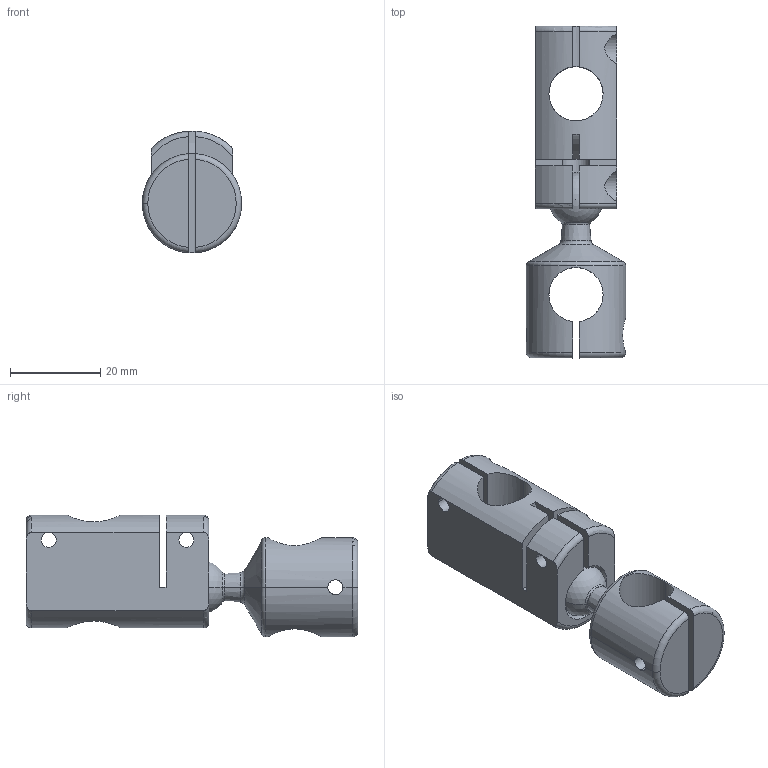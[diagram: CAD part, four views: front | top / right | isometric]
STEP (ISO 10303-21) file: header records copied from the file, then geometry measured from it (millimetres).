
FILE_DESCRIPTION (( 'STEP AP214' ), '1' );
FILE_NAME ('SBC363G.STEP', '2025-07-23T01:44:59', ( '' ), ( '' ), 'SwSTEP 2.0', 'SolidWorks 2024', '' );
FILE_SCHEMA (( 'AUTOMOTIVE_DESIGN' ));
Length unit declared in the file: millimetre
Products named in the file (3): SBC363G; SBC12-001; SBC12-863
Assembly tree (2 placements, depth 2):
  SBC363G
    SBC12-001
    SBC12-863
Bounding box: 22 x 73.5 x 27 mm (x, y, z)
Volume: 17067.6 mm3; surface area: 9821.9 mm2
Topology: 2 solids, 2 shells, 99 faces, 274 edges, 173 vertices
Faces by surface type: cylinder 45, plane 23, torus 17, cone 10, sphere 4
Entity records: 3780 total; most frequent: CARTESIAN_POINT 1202, DIRECTION 541, ORIENTED_EDGE 526, EDGE_CURVE 263, AXIS2_PLACEMENT_3D 219, VERTEX_POINT 166, CIRCLE 115, EDGE_LOOP 111
